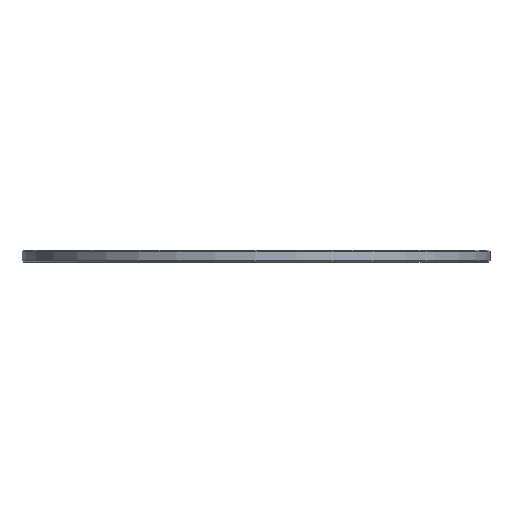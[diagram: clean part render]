
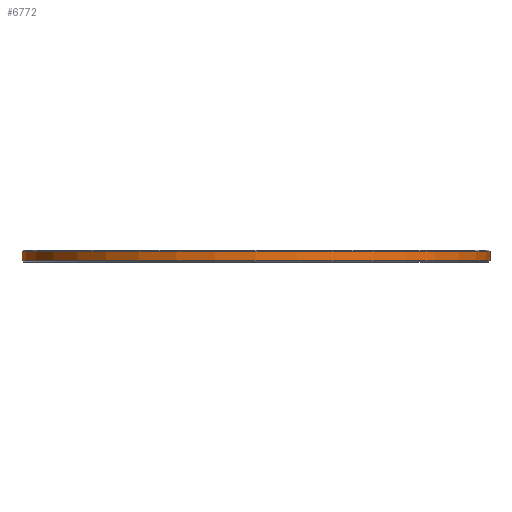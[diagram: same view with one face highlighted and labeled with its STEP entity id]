
A CAD part, front view. The second image highlights one B-rep face of the part: STEP entity #6772.
In plain terms, the highlighted cylindrical face has radius 60.938 mm (diameter 121.875 mm), a full revolution.
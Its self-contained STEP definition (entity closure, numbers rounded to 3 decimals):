
#89=CYLINDRICAL_SURFACE('',#7222,60.938);
#687=FACE_OUTER_BOUND('',#1098,.T.);
#1098=EDGE_LOOP('',(#6211,#6212,#6213,#6214));
#1226=CIRCLE('',#7221,60.938);
#1227=CIRCLE('',#7223,60.938);
#2049=LINE('',#10834,#2888);
#2888=VECTOR('',#8872,60.938);
#3512=VERTEX_POINT('',#10828);
#3513=VERTEX_POINT('',#10832);
#4416=EDGE_CURVE('',#3512,#3512,#1226,.T.);
#4418=EDGE_CURVE('',#3513,#3513,#1227,.T.);
#4419=EDGE_CURVE('',#3513,#3512,#2049,.T.);
#6211=ORIENTED_EDGE('',*,*,#4418,.F.);
#6212=ORIENTED_EDGE('',*,*,#4419,.T.);
#6213=ORIENTED_EDGE('',*,*,#4416,.F.);
#6214=ORIENTED_EDGE('',*,*,#4419,.F.);
#6772=ADVANCED_FACE('',(#687),#89,.T.);
#7221=AXIS2_PLACEMENT_3D('',#10829,#8865,#8866);
#7222=AXIS2_PLACEMENT_3D('',#10831,#8868,#8869);
#7223=AXIS2_PLACEMENT_3D('',#10833,#8870,#8871);
#8865=DIRECTION('center_axis',(0.,0.,-1.));
#8866=DIRECTION('ref_axis',(1.,0.,0.));
#8868=DIRECTION('center_axis',(0.,0.,1.));
#8869=DIRECTION('ref_axis',(1.,0.,0.));
#8870=DIRECTION('center_axis',(0.,0.,1.));
#8871=DIRECTION('ref_axis',(1.,0.,0.));
#8872=DIRECTION('',(0.,0.,-1.));
#10828=CARTESIAN_POINT('',(-60.938,0.,0.3));
#10829=CARTESIAN_POINT('Origin',(0.,0.,0.3));
#10831=CARTESIAN_POINT('Origin',(0.,0.,0.));
#10832=CARTESIAN_POINT('',(-60.938,0.,2.825));
#10833=CARTESIAN_POINT('Origin',(0.,0.,2.825));
#10834=CARTESIAN_POINT('',(-60.938,0.,0.));
